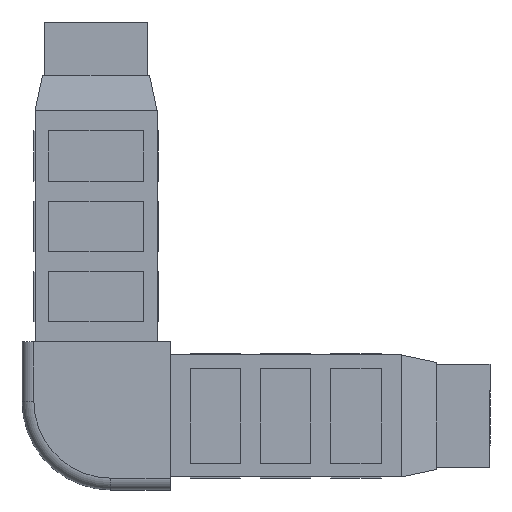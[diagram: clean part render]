
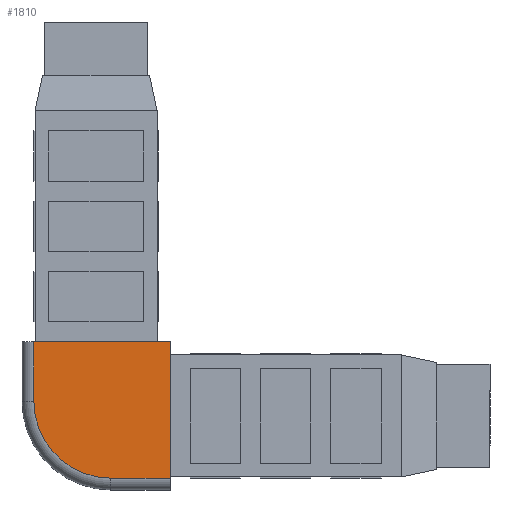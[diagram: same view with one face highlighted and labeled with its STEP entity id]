
A CAD part, left-side view. The second image highlights one B-rep face of the part: STEP entity #1810.
In plain terms, the highlighted planar face has unit normal (-1, 0, 0).
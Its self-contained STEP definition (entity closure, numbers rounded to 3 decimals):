
#83 = PLANE ( 'NONE',  #2760 ) ;
#206 = EDGE_CURVE ( 'NONE', #3343, #3615, #4882, .T. ) ;
#419 = VECTOR ( 'NONE', #4282, 1000. ) ;
#468 = DIRECTION ( 'NONE',  ( 0., 1., 0. ) ) ;
#676 = DIRECTION ( 'NONE',  ( 0., -1., 0. ) ) ;
#724 = ORIENTED_EDGE ( 'NONE', *, *, #3863, .T. ) ;
#727 = EDGE_CURVE ( 'NONE', #1816, #1182, #2480, .T. ) ;
#813 = VECTOR ( 'NONE', #4120, 1000. ) ;
#1182 = VERTEX_POINT ( 'NONE', #1498 ) ;
#1224 = AXIS2_PLACEMENT_3D ( 'NONE', #1492, #4181, #1872 ) ;
#1239 = CIRCLE ( 'NONE', #1224, 13. ) ;
#1492 = CARTESIAN_POINT ( 'NONE',  ( -12.5, -2.5, 2.5 ) ) ;
#1498 = CARTESIAN_POINT ( 'NONE',  ( -12.5, -12.5, -10.5 ) ) ;
#1532 = VECTOR ( 'NONE', #3839, 1000. ) ;
#1810 = ADVANCED_FACE ( 'NONE', ( #3886 ), #83, .F. ) ;
#1816 = VERTEX_POINT ( 'NONE', #3565 ) ;
#1872 = DIRECTION ( 'NONE',  ( 0., 1., 0. ) ) ;
#1994 = CARTESIAN_POINT ( 'NONE',  ( -12.5, -12.5, -10.5 ) ) ;
#2212 = EDGE_LOOP ( 'NONE', ( #3594, #3732, #724, #3410, #3046 ) ) ;
#2467 = VERTEX_POINT ( 'NONE', #4919 ) ;
#2480 = LINE ( 'NONE', #1994, #419 ) ;
#2760 = AXIS2_PLACEMENT_3D ( 'NONE', #3555, #2801, #468 ) ;
#2801 = DIRECTION ( 'NONE',  ( 1., 0., 0. ) ) ;
#2958 = CARTESIAN_POINT ( 'NONE',  ( -12.5, 10.5, 12.5 ) ) ;
#3046 = ORIENTED_EDGE ( 'NONE', *, *, #4419, .F. ) ;
#3196 = EDGE_CURVE ( 'NONE', #3343, #2467, #4900, .T. ) ;
#3343 = VERTEX_POINT ( 'NONE', #3618 ) ;
#3410 = ORIENTED_EDGE ( 'NONE', *, *, #727, .T. ) ;
#3555 = CARTESIAN_POINT ( 'NONE',  ( -12.5, 12.5, 12.5 ) ) ;
#3565 = CARTESIAN_POINT ( 'NONE',  ( -12.5, -2.5, -10.5 ) ) ;
#3594 = ORIENTED_EDGE ( 'NONE', *, *, #206, .F. ) ;
#3615 = VERTEX_POINT ( 'NONE', #4254 ) ;
#3618 = CARTESIAN_POINT ( 'NONE',  ( -12.5, 10.5, 12.5 ) ) ;
#3682 = LINE ( 'NONE', #4594, #1532 ) ;
#3732 = ORIENTED_EDGE ( 'NONE', *, *, #3196, .T. ) ;
#3839 = DIRECTION ( 'NONE',  ( 0., 0., -1. ) ) ;
#3863 = EDGE_CURVE ( 'NONE', #2467, #1816, #1239, .T. ) ;
#3884 = VECTOR ( 'NONE', #676, 1000. ) ;
#3886 = FACE_OUTER_BOUND ( 'NONE', #2212, .T. ) ;
#4120 = DIRECTION ( 'NONE',  ( 0., 0., -1. ) ) ;
#4181 = DIRECTION ( 'NONE',  ( -1., 0., 0. ) ) ;
#4254 = CARTESIAN_POINT ( 'NONE',  ( -12.5, -12.5, 12.5 ) ) ;
#4282 = DIRECTION ( 'NONE',  ( 0., -1., 0. ) ) ;
#4419 = EDGE_CURVE ( 'NONE', #3615, #1182, #3682, .T. ) ;
#4438 = CARTESIAN_POINT ( 'NONE',  ( -12.5, 12.5, 12.5 ) ) ;
#4594 = CARTESIAN_POINT ( 'NONE',  ( -12.5, -12.5, 12.5 ) ) ;
#4882 = LINE ( 'NONE', #4438, #3884 ) ;
#4900 = LINE ( 'NONE', #2958, #813 ) ;
#4919 = CARTESIAN_POINT ( 'NONE',  ( -12.5, 10.5, 2.5 ) ) ;
